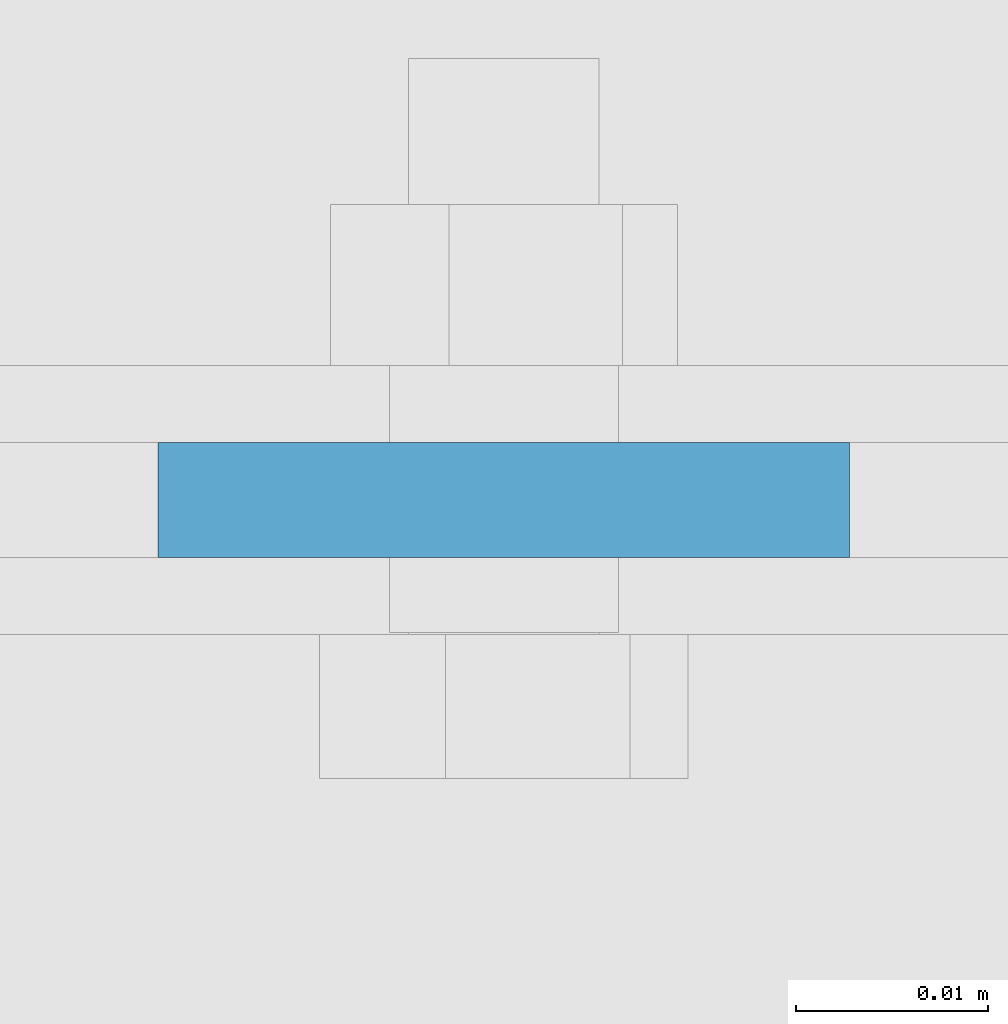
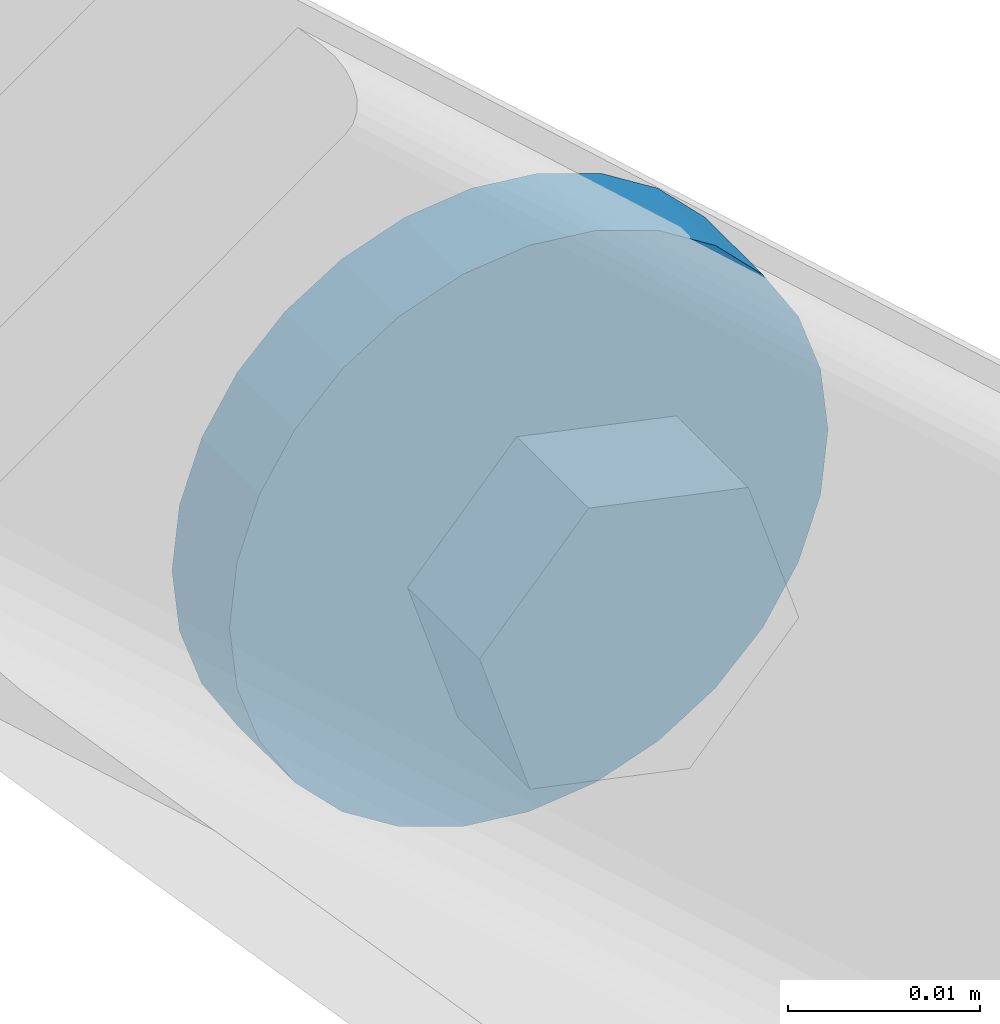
# One storey, part 126 of 362: 1 beam, 1 element without a shape of its own.
"""IFC2X3 building model written with IfcOpenShell, lengths in millimetres."""

from ifc_helpers import new_model, si_unit, frame, frame_2d, origin_with_axes, place, context, subcontext, project, spatial, circle_curve, parameter, trimmed, segment, composite_curve, outline, extrude, material, type_object, element, aggregate, save


model = new_model("IFC2X3")

# Units and contexts
model_context = context("Model", 3, precision=1e-05, world=origin_with_axes())
body_context = subcontext(model_context, "Body", "Model", "MODEL_VIEW")
ifc_project = project(units=[si_unit("LENGTHUNIT", "METRE", prefix="MILLI"), si_unit("AREAUNIT", "SQUARE_METRE"), si_unit("VOLUMEUNIT", "CUBIC_METRE"), si_unit("MASSUNIT", "GRAM", prefix="KILO"), si_unit("TIMEUNIT", "SECOND"), si_unit("PLANEANGLEUNIT", "RADIAN"), si_unit("SOLIDANGLEUNIT", "STERADIAN"), si_unit("THERMODYNAMICTEMPERATUREUNIT", "DEGREE_CELSIUS"), si_unit("LUMINOUSINTENSITYUNIT", "LUMEN")], contexts=[model_context])

# Site, building, storey
site_placement = place(None, origin_with_axes())
site = spatial("IfcSite", under=ifc_project, at=site_placement, Name="Undefined", CompositionType="ELEMENT")
building_placement = place(site_placement, origin_with_axes())
building = spatial("IfcBuilding", under=site, at=building_placement, Name="Undefined", CompositionType="ELEMENT")
storey_placement = place(building_placement, origin_with_axes())
storey = spatial("IfcBuildingStorey", under=building, at=storey_placement, Name="Undefined", CompositionType="ELEMENT", Elevation=0.0)

# Assembly, beam
assembly_placement = place(storey_placement, origin_with_axes())
assembly = element("IfcElementAssembly", 1, at=assembly_placement, inside=storey, AssemblyPlace="NOTDEFINED", PredefinedType="NOTDEFINED")
ifc_material = material(Name="Undefined/S235-E24")
beam_type = type_object("IfcBeamType", Name="TOLE6*36", PredefinedType="NOTDEFINED")
beam_placement = place(assembly_placement, frame((39324.7441351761, 3800.00038406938, 7479.58868230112), z_axis=(0.0, -1.0, 0.0), x_axis=(1.0, 0.0, 0.0)))
beam = element("IfcBeam", 2, at=beam_placement, type_object=beam_type, material=ifc_material, Name="PLAQUETTE", ObjectType="TOLE6*36", context=body_context, shape_type="SweptSolid", body=[
    extrude(outline(composite_curve([segment(trimmed(circle_curve(frame_2d((18.0, 18.0), x_axis=(-1.0, 0.0)), 18.0), [parameter(0.0)], [parameter(1.5707963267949)], True, "PARAMETER"), True, "CONTINUOUS"), segment(trimmed(circle_curve(frame_2d((18.0, 18.0), x_axis=(0.0, -1.0)), 18.0), [parameter(0.0)], [parameter(1.5707963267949)], True, "PARAMETER"), True, "CONTINUOUS"), segment(trimmed(circle_curve(frame_2d((18.0, 18.0), x_axis=(1.0, 0.0)), 18.0), [parameter(0.0)], [parameter(1.5707963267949)], True, "PARAMETER"), True, "CONTINUOUS"), segment(trimmed(circle_curve(frame_2d((18.0, 18.0), x_axis=(0.0, 1.0)), 18.0), [parameter(0.0)], [parameter(1.5707963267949)], True, "PARAMETER"), True, "CONTINUOUS")], self_intersect=True)), frame((0.0, 0.0, -3.0), z_axis=(0.0, 0.0, 1.0), x_axis=(1.0, 0.0, 0.0)), (0.0, 0.0, 1.0), 6.0),
])
aggregate(assembly, [beam])

save(model, "model.ifc")
